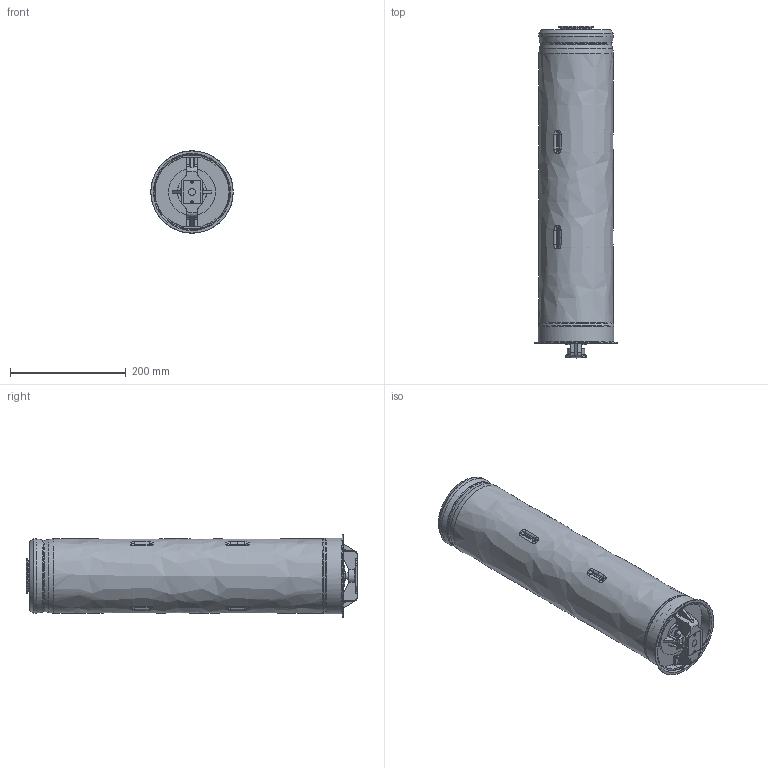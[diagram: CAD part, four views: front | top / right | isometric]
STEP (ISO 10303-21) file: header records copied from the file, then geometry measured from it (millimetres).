
FILE_DESCRIPTION((''),'2;1');
FILE_NAME('U:\Users\i.maeder\E440_450_460\30709100(340392)_E460.stp','2014-06-18T13:40:45',('User'),('SDRC'),'I-DEAS Master Series 9','UNIX','Yes');
FILE_SCHEMA(('AUTOMOTIVE_DESIGN { 1 0 10303 214 1 1 1 1 }'));
Length unit declared in the file: millimetre
Products named in the file (1): 30709100(340392)
Bounding box: 141.97 x 572.9 x 141.81 mm (x, y, z)
Volume: 6869635.9 mm3; surface area: 286062.8 mm2
Topology: 1 solids, 2 shells, 493 faces, 1238 edges, 804 vertices
Faces by surface type: bspline 493
Entity records: 18801 total; most frequent: CARTESIAN_POINT 11901, ORIENTED_EDGE 2400, EDGE_CURVE 1200, VERTEX_POINT 730, B_SPLINE_CURVE_WITH_KNOTS 613, EDGE_LOOP 526, FACE_OUTER_BOUND 493, ADVANCED_FACE 493
